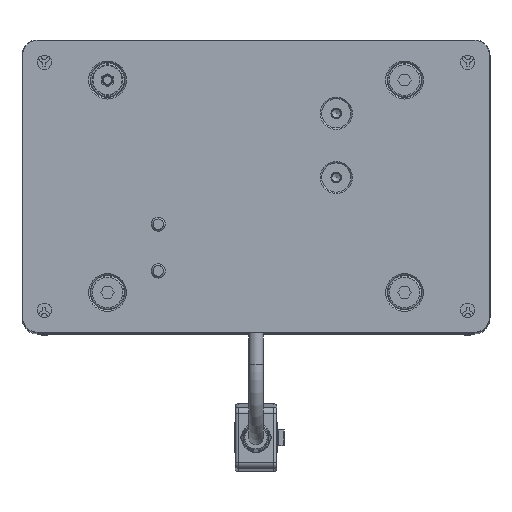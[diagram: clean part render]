
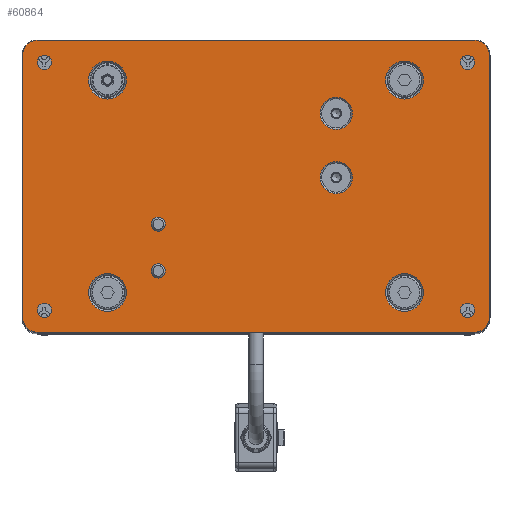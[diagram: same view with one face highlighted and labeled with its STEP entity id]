
A CAD part, top view. The second image highlights one B-rep face of the part: STEP entity #60864.
In plain terms, the highlighted planar face has unit normal (0, 0, 1).
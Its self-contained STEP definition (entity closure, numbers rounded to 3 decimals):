
#3459=LINE('',#85989,#7219);
#3463=LINE('',#86001,#7223);
#3467=LINE('',#86013,#7227);
#3470=LINE('',#86022,#7230);
#7219=VECTOR('',#71058,1000.);
#7223=VECTOR('',#71070,1000.);
#7227=VECTOR('',#71082,1000.);
#7230=VECTOR('',#71093,1000.);
#12241=ORIENTED_EDGE('',*,*,#26056,.T.);
#12242=ORIENTED_EDGE('',*,*,#26057,.T.);
#12243=ORIENTED_EDGE('',*,*,#26058,.F.);
#12244=ORIENTED_EDGE('',*,*,#26059,.F.);
#12245=ORIENTED_EDGE('',*,*,#26060,.T.);
#12246=ORIENTED_EDGE('',*,*,#26061,.T.);
#12247=ORIENTED_EDGE('',*,*,#26062,.T.);
#12248=ORIENTED_EDGE('',*,*,#26063,.T.);
#12249=ORIENTED_EDGE('',*,*,#26064,.F.);
#12250=ORIENTED_EDGE('',*,*,#26065,.F.);
#12251=ORIENTED_EDGE('',*,*,#26066,.F.);
#12252=ORIENTED_EDGE('',*,*,#26067,.F.);
#12253=ORIENTED_EDGE('',*,*,#26034,.T.);
#12254=ORIENTED_EDGE('',*,*,#26038,.T.);
#12255=ORIENTED_EDGE('',*,*,#26041,.T.);
#12256=ORIENTED_EDGE('',*,*,#26044,.T.);
#12257=ORIENTED_EDGE('',*,*,#26047,.T.);
#12258=ORIENTED_EDGE('',*,*,#26050,.T.);
#12259=ORIENTED_EDGE('',*,*,#26053,.T.);
#12260=ORIENTED_EDGE('',*,*,#26055,.T.);
#26034=EDGE_CURVE('',#33110,#33109,#37573,.T.);
#26038=EDGE_CURVE('',#33109,#33112,#3459,.T.);
#26041=EDGE_CURVE('',#33112,#33114,#37575,.T.);
#26044=EDGE_CURVE('',#33114,#33116,#3463,.T.);
#26047=EDGE_CURVE('',#33116,#33118,#37577,.T.);
#26050=EDGE_CURVE('',#33118,#33120,#3467,.T.);
#26053=EDGE_CURVE('',#33120,#33122,#37579,.T.);
#26055=EDGE_CURVE('',#33122,#33110,#3470,.T.);
#26056=EDGE_CURVE('',#33123,#33123,#37580,.T.);
#26057=EDGE_CURVE('',#33124,#33124,#37581,.T.);
#26058=EDGE_CURVE('',#33125,#33125,#37582,.T.);
#26059=EDGE_CURVE('',#33126,#33126,#37583,.T.);
#26060=EDGE_CURVE('',#33127,#33127,#37584,.T.);
#26061=EDGE_CURVE('',#33128,#33128,#37585,.T.);
#26062=EDGE_CURVE('',#33129,#33129,#37586,.T.);
#26063=EDGE_CURVE('',#33130,#33130,#37587,.T.);
#26064=EDGE_CURVE('',#33131,#33131,#37588,.T.);
#26065=EDGE_CURVE('',#33132,#33132,#37589,.T.);
#26066=EDGE_CURVE('',#33133,#33133,#37590,.T.);
#26067=EDGE_CURVE('',#33134,#33134,#37591,.T.);
#33109=VERTEX_POINT('',#85980);
#33110=VERTEX_POINT('',#85982);
#33112=VERTEX_POINT('',#85988);
#33114=VERTEX_POINT('',#85994);
#33116=VERTEX_POINT('',#86000);
#33118=VERTEX_POINT('',#86006);
#33120=VERTEX_POINT('',#86012);
#33122=VERTEX_POINT('',#86018);
#33123=VERTEX_POINT('',#86025);
#33124=VERTEX_POINT('',#86027);
#33125=VERTEX_POINT('',#86029);
#33126=VERTEX_POINT('',#86031);
#33127=VERTEX_POINT('',#86033);
#33128=VERTEX_POINT('',#86035);
#33129=VERTEX_POINT('',#86037);
#33130=VERTEX_POINT('',#86039);
#33131=VERTEX_POINT('',#86041);
#33132=VERTEX_POINT('',#86043);
#33133=VERTEX_POINT('',#86045);
#33134=VERTEX_POINT('',#86047);
#37573=CIRCLE('',#64200,5.);
#37575=CIRCLE('',#64204,5.);
#37577=CIRCLE('',#64208,5.);
#37579=CIRCLE('',#64212,5.);
#37580=CIRCLE('',#64215,5.5);
#37581=CIRCLE('',#64216,5.5);
#37582=CIRCLE('',#64217,2.459);
#37583=CIRCLE('',#64218,2.459);
#37584=CIRCLE('',#64219,6.5);
#37585=CIRCLE('',#64220,6.5);
#37586=CIRCLE('',#64221,6.5);
#37587=CIRCLE('',#64222,6.5);
#37588=CIRCLE('',#64223,2.459);
#37589=CIRCLE('',#64224,2.459);
#37590=CIRCLE('',#64225,2.459);
#37591=CIRCLE('',#64226,2.459);
#40320=EDGE_LOOP('',(#12241));
#40321=EDGE_LOOP('',(#12242));
#40322=EDGE_LOOP('',(#12243));
#40323=EDGE_LOOP('',(#12244));
#40324=EDGE_LOOP('',(#12245));
#40325=EDGE_LOOP('',(#12246));
#40326=EDGE_LOOP('',(#12247));
#40327=EDGE_LOOP('',(#12248));
#40328=EDGE_LOOP('',(#12249));
#40329=EDGE_LOOP('',(#12250));
#40330=EDGE_LOOP('',(#12251));
#40331=EDGE_LOOP('',(#12252));
#40332=EDGE_LOOP('',(#12253,#12254,#12255,#12256,#12257,#12258,#12259,#12260));
#43650=FACE_BOUND('',#40320,.T.);
#43651=FACE_BOUND('',#40321,.T.);
#43652=FACE_BOUND('',#40322,.T.);
#43653=FACE_BOUND('',#40323,.T.);
#43654=FACE_BOUND('',#40324,.T.);
#43655=FACE_BOUND('',#40325,.T.);
#43656=FACE_BOUND('',#40326,.T.);
#43657=FACE_BOUND('',#40327,.T.);
#43658=FACE_BOUND('',#40328,.T.);
#43659=FACE_BOUND('',#40329,.T.);
#43660=FACE_BOUND('',#40330,.T.);
#43661=FACE_BOUND('',#40331,.T.);
#43662=FACE_BOUND('',#40332,.T.);
#46767=PLANE('',#64214);
#60864=ADVANCED_FACE('',(#43650,#43651,#43652,#43653,#43654,#43655,#43656,
#43657,#43658,#43659,#43660,#43661,#43662),#46767,.T.);
#64200=AXIS2_PLACEMENT_3D('',#85981,#71051,#71052);
#64204=AXIS2_PLACEMENT_3D('',#85995,#71064,#71065);
#64208=AXIS2_PLACEMENT_3D('',#86007,#71076,#71077);
#64212=AXIS2_PLACEMENT_3D('',#86019,#71088,#71089);
#64214=AXIS2_PLACEMENT_3D('',#86023,#71094,#71095);
#64215=AXIS2_PLACEMENT_3D('',#86024,#71096,#71097);
#64216=AXIS2_PLACEMENT_3D('',#86026,#71098,#71099);
#64217=AXIS2_PLACEMENT_3D('',#86028,#71100,#71101);
#64218=AXIS2_PLACEMENT_3D('',#86030,#71102,#71103);
#64219=AXIS2_PLACEMENT_3D('',#86032,#71104,#71105);
#64220=AXIS2_PLACEMENT_3D('',#86034,#71106,#71107);
#64221=AXIS2_PLACEMENT_3D('',#86036,#71108,#71109);
#64222=AXIS2_PLACEMENT_3D('',#86038,#71110,#71111);
#64223=AXIS2_PLACEMENT_3D('',#86040,#71112,#71113);
#64224=AXIS2_PLACEMENT_3D('',#86042,#71114,#71115);
#64225=AXIS2_PLACEMENT_3D('',#86044,#71116,#71117);
#64226=AXIS2_PLACEMENT_3D('',#86046,#71118,#71119);
#71051=DIRECTION('',(0.,0.,1.));
#71052=DIRECTION('',(1.,0.,0.));
#71058=DIRECTION('',(1.,0.,0.));
#71064=DIRECTION('',(0.,0.,1.));
#71065=DIRECTION('',(-1.,0.,0.));
#71070=DIRECTION('',(0.,1.,0.));
#71076=DIRECTION('',(0.,0.,1.));
#71077=DIRECTION('',(1.,0.,0.));
#71082=DIRECTION('',(-1.,0.,0.));
#71088=DIRECTION('',(0.,0.,1.));
#71089=DIRECTION('',(1.,0.,0.));
#71093=DIRECTION('',(0.,-1.,0.));
#71094=DIRECTION('',(0.,0.,1.));
#71095=DIRECTION('',(1.,0.,0.));
#71096=DIRECTION('',(0.,0.,-1.));
#71097=DIRECTION('',(0.,1.,0.));
#71098=DIRECTION('',(0.,0.,-1.));
#71099=DIRECTION('',(0.,1.,0.));
#71100=DIRECTION('',(0.,0.,1.));
#71101=DIRECTION('',(1.,0.,0.));
#71102=DIRECTION('',(0.,0.,1.));
#71103=DIRECTION('',(1.,0.,0.));
#71104=DIRECTION('',(0.,0.,-1.));
#71105=DIRECTION('',(1.,0.,0.));
#71106=DIRECTION('',(0.,0.,-1.));
#71107=DIRECTION('',(1.,0.,0.));
#71108=DIRECTION('',(0.,0.,-1.));
#71109=DIRECTION('',(1.,0.,0.));
#71110=DIRECTION('',(0.,0.,-1.));
#71111=DIRECTION('',(1.,0.,0.));
#71112=DIRECTION('',(0.,0.,1.));
#71113=DIRECTION('',(1.,0.,0.));
#71114=DIRECTION('',(0.,0.,1.));
#71115=DIRECTION('',(1.,0.,0.));
#71116=DIRECTION('',(0.,0.,1.));
#71117=DIRECTION('',(1.,0.,0.));
#71118=DIRECTION('',(0.,0.,1.));
#71119=DIRECTION('',(1.,0.,0.));
#85980=CARTESIAN_POINT('',(-75.,-50.,8.));
#85981=CARTESIAN_POINT('',(-75.,-45.,8.));
#85982=CARTESIAN_POINT('',(-80.,-45.,8.));
#85988=CARTESIAN_POINT('',(75.,-50.,8.));
#85989=CARTESIAN_POINT('',(-75.,-50.,8.));
#85994=CARTESIAN_POINT('',(80.,-45.,8.));
#85995=CARTESIAN_POINT('',(75.,-45.,8.));
#86000=CARTESIAN_POINT('',(80.,45.,8.));
#86001=CARTESIAN_POINT('',(80.,-45.,8.));
#86006=CARTESIAN_POINT('',(75.,50.,8.));
#86007=CARTESIAN_POINT('',(75.,45.,8.));
#86012=CARTESIAN_POINT('',(-75.,50.,8.));
#86013=CARTESIAN_POINT('',(75.,50.,8.));
#86018=CARTESIAN_POINT('',(-80.,45.,8.));
#86019=CARTESIAN_POINT('',(-75.,45.,8.));
#86022=CARTESIAN_POINT('',(-80.,45.,8.));
#86023=CARTESIAN_POINT('',(-75.,-45.,8.));
#86024=CARTESIAN_POINT('',(27.5,3.,8.));
#86025=CARTESIAN_POINT('',(27.5,8.5,8.));
#86026=CARTESIAN_POINT('',(27.5,25.,8.));
#86027=CARTESIAN_POINT('',(27.5,30.5,8.));
#86028=CARTESIAN_POINT('',(-33.5,-13.,8.));
#86029=CARTESIAN_POINT('',(-31.042,-13.,8.));
#86030=CARTESIAN_POINT('',(-33.5,-29.,8.));
#86031=CARTESIAN_POINT('',(-31.042,-29.,8.));
#86032=CARTESIAN_POINT('',(-50.9,-36.4,8.));
#86033=CARTESIAN_POINT('',(-44.4,-36.4,8.));
#86034=CARTESIAN_POINT('',(50.9,-36.4,8.));
#86035=CARTESIAN_POINT('',(57.4,-36.4,8.));
#86036=CARTESIAN_POINT('',(50.9,36.4,8.));
#86037=CARTESIAN_POINT('',(57.4,36.4,8.));
#86038=CARTESIAN_POINT('',(-50.9,36.4,8.));
#86039=CARTESIAN_POINT('',(-44.4,36.4,8.));
#86040=CARTESIAN_POINT('',(-72.5,-42.5,8.));
#86041=CARTESIAN_POINT('',(-70.042,-42.5,8.));
#86042=CARTESIAN_POINT('',(72.5,-42.5,8.));
#86043=CARTESIAN_POINT('',(74.959,-42.5,8.));
#86044=CARTESIAN_POINT('',(72.5,42.5,8.));
#86045=CARTESIAN_POINT('',(74.959,42.5,8.));
#86046=CARTESIAN_POINT('',(-72.5,42.5,8.));
#86047=CARTESIAN_POINT('',(-70.042,42.5,8.));
